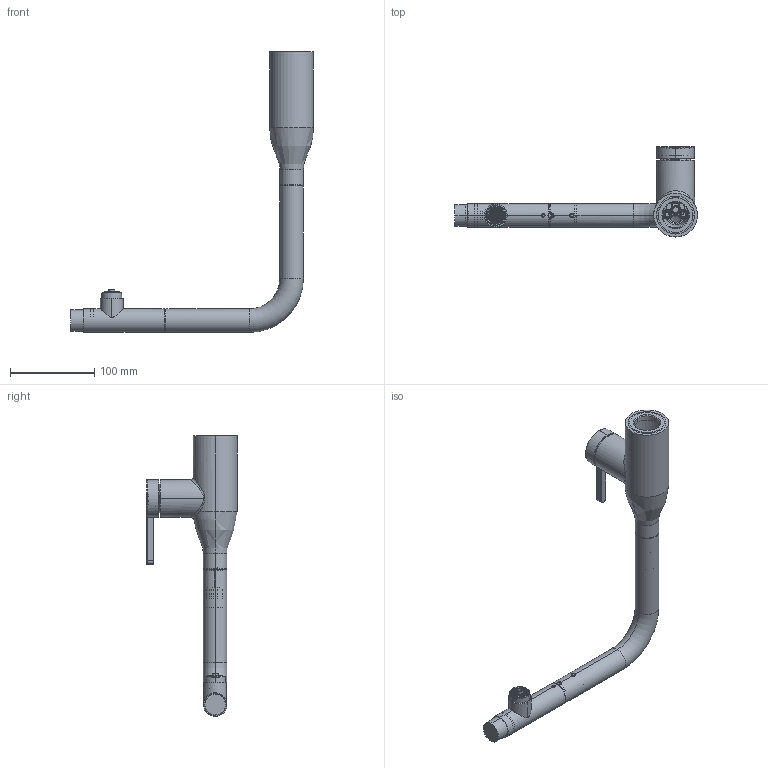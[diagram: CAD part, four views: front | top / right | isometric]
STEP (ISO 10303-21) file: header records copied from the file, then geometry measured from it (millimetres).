
FILE_DESCRIPTION((''),'2;1');
FILE_NAME('8020106_ASM','2023-04-20T',('OSSODESIGN'),(''),'PRO/ENGINEER BY PARAMETRIC TECHNOLOGY CORPORATION, 2015240','PRO/ENGINEER BY PARAMETRIC TECHNOLOGY CORPORATION, 2015240','');
FILE_SCHEMA(('CONFIG_CONTROL_DESIGN'));
Length unit declared in the file: millimetre
Products named in the file (38): 7010337; 7080327; 7130125; 7100253; 7200145; 7190170; 7080419; 22528-1; 22528-3; 22528-4; 22528-5; 7100202; 22527-8; 22528-7; 22528-2; 116085; 318131; PRT0003; 7370069_ASM; 7100163; 7150043; 7160083; 7230090; 7140059; 7050075; 7040139; 7100129; 7100175; 7020303; 7020247; 7150021; 7150001; 20220609-02; 7130202; 7070189_ASM; 7100243; 7260101_ASM; 8020106_ASM
Assembly tree (38 placements, depth 3):
  8020106_ASM
    7010337
    7080327
    7130125
    7100253  x2
    7200145
    7190170
    7080419
    7370069_ASM
      22528-1
      22528-3
      22528-4
      22528-5
      7100202
      22527-8
      22528-7
      22528-2
      116085
      318131
      PRT0003
    7100163
    7150043
    7160083
    7230090
    7140059
    7050075
    7040139
    7100129
    7100175
    7020303
    7020247
    7150021
    7150001
    7070189_ASM
      20220609-02
      7130202
    7100243
    7260101_ASM
Bounding box: 288.5 x 107 x 333.5 mm (x, y, z)
Volume: 248052.9 mm3; surface area: 214344.3 mm2
Topology: 36 solids, 40 shells, 2392 faces, 6650 edges, 4300 vertices
Faces by surface type: plane 1444, cylinder 608, cone 171, torus 113, bspline 44, sphere 8, revolution 4
Entity records: 89904 total; most frequent: CARTESIAN_POINT 26544, ORIENTED_EDGE 13268, DIRECTION 12776, EDGE_CURVE 6634, VECTOR 4450, LINE 4450, VERTEX_POINT 4296, AXIS2_PLACEMENT_3D 4161
